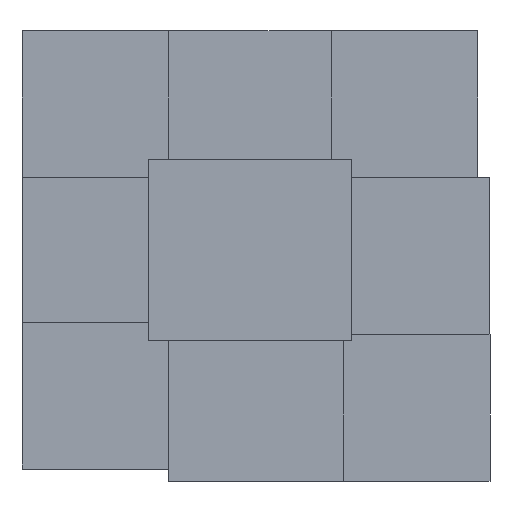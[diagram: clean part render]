
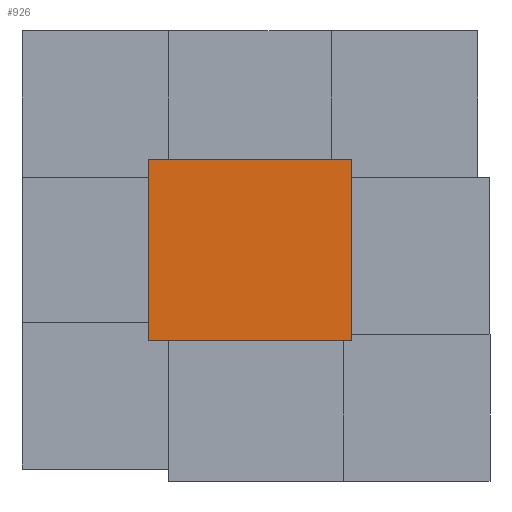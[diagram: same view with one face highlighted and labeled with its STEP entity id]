
A CAD part, left-side view. The second image highlights one B-rep face of the part: STEP entity #926.
In plain terms, the highlighted planar face has unit normal (-1, 0, 0).
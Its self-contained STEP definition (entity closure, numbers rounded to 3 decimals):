
#808=CARTESIAN_POINT('Line Origine',(0.,0.,62.)) ;
#812=CARTESIAN_POINT('Vertex',(0.,0.,0.)) ;
#814=CARTESIAN_POINT('Vertex',(0.,0.,124.)) ;
#883=CARTESIAN_POINT('Vertex',(0.,139.,0.)) ;
#886=CARTESIAN_POINT('Line Origine',(0.,139.,62.)) ;
#890=CARTESIAN_POINT('Vertex',(0.,139.,124.)) ;
#905=CARTESIAN_POINT('Axis2P3D Location',(0.,139.,0.)) ;
#910=CARTESIAN_POINT('Line Origine',(0.,69.5,0.)) ;
#915=CARTESIAN_POINT('Line Origine',(0.,69.5,124.)) ;
#809=DIRECTION('Vector Direction',(0.,0.,1.)) ;
#887=DIRECTION('Vector Direction',(0.,0.,1.)) ;
#906=DIRECTION('Axis2P3D Direction',(-1.,0.,0.)) ;
#907=DIRECTION('Axis2P3D XDirection',(0.,-1.,0.)) ;
#911=DIRECTION('Vector Direction',(0.,-1.,0.)) ;
#916=DIRECTION('Vector Direction',(0.,-1.,0.)) ;
#908=AXIS2_PLACEMENT_3D('Plane Axis2P3D',#905,#906,#907) ;
#921=ORIENTED_EDGE('',*,*,#892,.F.) ;
#922=ORIENTED_EDGE('',*,*,#914,.T.) ;
#923=ORIENTED_EDGE('',*,*,#816,.T.) ;
#924=ORIENTED_EDGE('',*,*,#919,.F.) ;
#810=VECTOR('Line Direction',#809,1.) ;
#888=VECTOR('Line Direction',#887,1.) ;
#912=VECTOR('Line Direction',#911,1.) ;
#917=VECTOR('Line Direction',#916,1.) ;
#926=ADVANCED_FACE('Body.2-molde-superior',(#925),#909,.T.) ;
#816=EDGE_CURVE('',#813,#815,#811,.T.) ;
#892=EDGE_CURVE('',#884,#891,#889,.T.) ;
#914=EDGE_CURVE('',#884,#813,#913,.T.) ;
#919=EDGE_CURVE('',#891,#815,#918,.T.) ;
#920=EDGE_LOOP('',(#921,#922,#923,#924)) ;
#925=FACE_OUTER_BOUND('',#920,.T.) ;
#811=LINE('Line',#808,#810) ;
#889=LINE('Line',#886,#888) ;
#913=LINE('Line',#910,#912) ;
#918=LINE('Line',#915,#917) ;
#909=PLANE('',#908) ;
#813=VERTEX_POINT('',#812) ;
#815=VERTEX_POINT('',#814) ;
#884=VERTEX_POINT('',#883) ;
#891=VERTEX_POINT('',#890) ;
